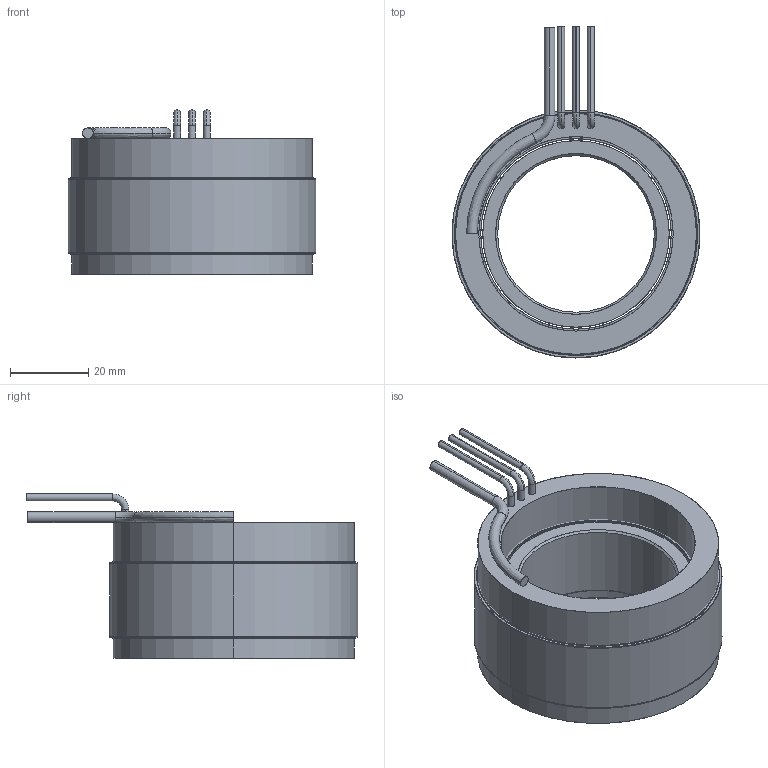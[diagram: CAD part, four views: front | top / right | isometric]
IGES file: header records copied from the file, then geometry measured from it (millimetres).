
Start section: SolidWorks IGES file using analytic representation for surfaces
Global section: file name: \\fs01.aveox.local\user documents\eng\My Documents\6100391-XX UAV STANDARD STATOR AND ROTOR SET 2.5OD 27S24P\6100391-02.IGS; native system: SolidWorks 2016; preprocessor: SolidWorks 2016; author: eng; date: 201214.173355; units: inch
Bounding box: 63.5 x 84.96 x 42.04 mm (x, y, z)
Surface area: 40943.9 mm2 (no closed solid volume)
Topology: 0 solids, 0 shells, 75 faces, 2288 edges, 2288 vertices
Faces by surface type: revolution 46, bspline 29
